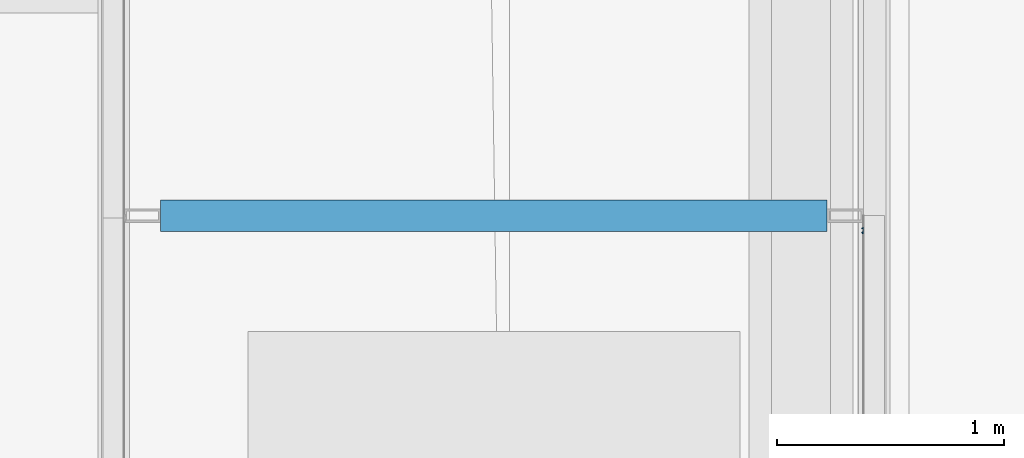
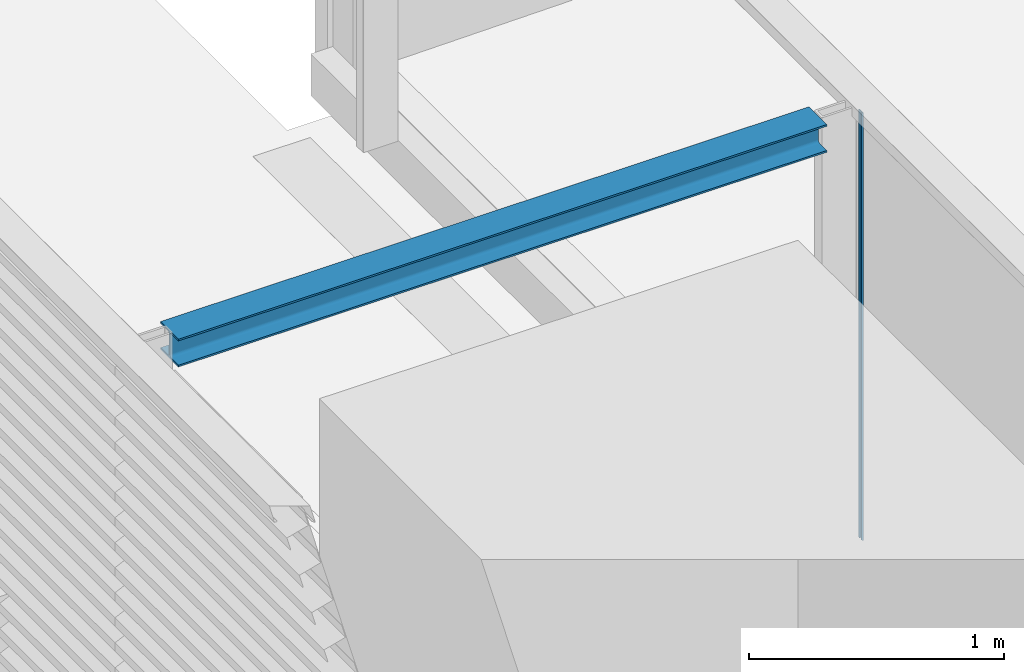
# One storey, part 18 of 32: 1 beam, 1 member, 1 element without a shape of its own.
"""IFC2X3 building model written with IfcOpenShell, lengths in millimetres."""

from ifc_helpers import new_model, entity, si_unit, converted_unit, derived_unit, direction, frame, frame_2d, origin, place, context, subcontext, project, spatial, polyline, circle_curve, parameter, trimmed, segment, composite_curve, i_section, outline, extrude, source, transform, mapped, material, type_object, type_shapes, element, aggregate, save


model = new_model("IFC2X3")

# Units and contexts
model_context = context("Model", 3, precision=0.01, world=origin(), true_north=direction((6.123031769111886e-17, 1.0)))
body_context = subcontext(model_context, "Body", "Model", "MODEL_VIEW")
ifc_project = project(units=[si_unit("LENGTHUNIT", "METRE", prefix="MILLI"), si_unit("AREAUNIT", "SQUARE_METRE"), si_unit("VOLUMEUNIT", "CUBIC_METRE"), converted_unit("PLANEANGLEUNIT", "DEGREE", entity("IfcRatioMeasure", 0.017453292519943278), si_unit("PLANEANGLEUNIT", "RADIAN"), dimensions=[0, 0, 0, 0, 0, 0, 0]), si_unit("MASSUNIT", "GRAM", prefix="KILO"), derived_unit("MASSDENSITYUNIT", [(si_unit("MASSUNIT", "GRAM", prefix="KILO"), 1), (si_unit("LENGTHUNIT", "METRE"), -3)]), derived_unit("IONCONCENTRATIONUNIT", [(si_unit("MASSUNIT", "GRAM", prefix="KILO"), 1), (si_unit("LENGTHUNIT", "METRE"), -3)]), derived_unit("MOMENTOFINERTIAUNIT", [(si_unit("LENGTHUNIT", "METRE"), 4)]), si_unit("TIMEUNIT", "SECOND"), si_unit("FREQUENCYUNIT", "HERTZ"), si_unit("THERMODYNAMICTEMPERATUREUNIT", "DEGREE_CELSIUS"), derived_unit("THERMALTRANSMITTANCEUNIT", [(si_unit("MASSUNIT", "GRAM", prefix="KILO"), 1), (si_unit("THERMODYNAMICTEMPERATUREUNIT", "KELVIN"), -1), (si_unit("TIMEUNIT", "SECOND"), -3)]), derived_unit("THERMALCONDUCTANCEUNIT", [(si_unit("MASSUNIT", "GRAM", prefix="KILO"), 1), (si_unit("THERMODYNAMICTEMPERATUREUNIT", "KELVIN"), -1), (si_unit("TIMEUNIT", "SECOND"), -3), (si_unit("LENGTHUNIT", "METRE"), 1)]), derived_unit("VOLUMETRICFLOWRATEUNIT", [(si_unit("LENGTHUNIT", "METRE"), 3), (si_unit("TIMEUNIT", "SECOND"), -1)]), derived_unit("MASSFLOWRATEUNIT", [(si_unit("MASSUNIT", "GRAM", prefix="KILO"), 1), (si_unit("TIMEUNIT", "SECOND"), -1)]), derived_unit("ROTATIONALFREQUENCYUNIT", [(si_unit("TIMEUNIT", "SECOND"), -1)]), si_unit("ELECTRICCURRENTUNIT", "AMPERE"), si_unit("ELECTRICVOLTAGEUNIT", "VOLT"), si_unit("POWERUNIT", "WATT"), si_unit("FORCEUNIT", "NEWTON", prefix="KILO"), si_unit("ILLUMINANCEUNIT", "LUX"), si_unit("LUMINOUSFLUXUNIT", "LUMEN"), si_unit("LUMINOUSINTENSITYUNIT", "CANDELA"), derived_unit("USERDEFINED", [(si_unit("MASSUNIT", "GRAM", prefix="KILO"), -1), (si_unit("LENGTHUNIT", "METRE"), -2), (si_unit("TIMEUNIT", "SECOND"), 3), (si_unit("LUMINOUSFLUXUNIT", "LUMEN"), 1)]), derived_unit("USERDEFINED", [(si_unit("MASSUNIT", "GRAM", prefix="KILO"), 1), (si_unit("TIMEUNIT", "SECOND"), -3), (si_unit("LENGTHUNIT", "METRE"), 3), (si_unit("ELECTRICCURRENTUNIT", "AMPERE"), -2)]), derived_unit("SOUNDPOWERUNIT", [(si_unit("MASSUNIT", "GRAM", prefix="KILO"), 1), (si_unit("TIMEUNIT", "SECOND"), -3), (si_unit("LENGTHUNIT", "METRE"), 2)]), derived_unit("SOUNDPRESSUREUNIT", [(si_unit("MASSUNIT", "GRAM", prefix="KILO"), 1), (si_unit("LENGTHUNIT", "METRE"), -1), (si_unit("TIMEUNIT", "SECOND"), -2)]), derived_unit("LINEARVELOCITYUNIT", [(si_unit("LENGTHUNIT", "METRE"), 1), (si_unit("TIMEUNIT", "SECOND"), -1)]), si_unit("PRESSUREUNIT", "PASCAL"), derived_unit("USERDEFINED", [(si_unit("MASSUNIT", "GRAM", prefix="KILO"), 1), (si_unit("LENGTHUNIT", "METRE"), -2), (si_unit("TIMEUNIT", "SECOND"), -2)]), derived_unit("LINEARFORCEUNIT", [(si_unit("MASSUNIT", "GRAM", prefix="KILO"), 1), (si_unit("TIMEUNIT", "SECOND"), -2)]), derived_unit("PLANARFORCEUNIT", [(si_unit("MASSUNIT", "GRAM", prefix="KILO"), 1), (si_unit("LENGTHUNIT", "METRE"), -1), (si_unit("TIMEUNIT", "SECOND"), -2)]), derived_unit("SPECIFICHEATCAPACITYUNIT", [(si_unit("THERMODYNAMICTEMPERATUREUNIT", "KELVIN"), -1), (si_unit("LENGTHUNIT", "METRE"), 2), (si_unit("TIMEUNIT", "SECOND"), -2)]), derived_unit("HEATINGVALUEUNIT", [(si_unit("LENGTHUNIT", "METRE"), 2), (si_unit("TIMEUNIT", "SECOND"), -2)]), derived_unit("VAPORPERMEABILITYUNIT", [(si_unit("LENGTHUNIT", "METRE"), -1), (si_unit("TIMEUNIT", "SECOND"), 1)]), derived_unit("DYNAMICVISCOSITYUNIT", [(si_unit("MASSUNIT", "GRAM", prefix="KILO"), 1), (si_unit("TIMEUNIT", "SECOND"), -1), (si_unit("LENGTHUNIT", "METRE"), -1)]), derived_unit("THERMALEXPANSIONCOEFFICIENTUNIT", [(si_unit("THERMODYNAMICTEMPERATUREUNIT", "KELVIN"), -1)]), derived_unit("MODULUSOFELASTICITYUNIT", [(si_unit("MASSUNIT", "GRAM", prefix="KILO"), 1), (si_unit("LENGTHUNIT", "METRE"), -1), (si_unit("TIMEUNIT", "SECOND"), -2)]), derived_unit("ISOTHERMALMOISTURECAPACITYUNIT", [(si_unit("LENGTHUNIT", "METRE"), 3), (si_unit("MASSUNIT", "GRAM", prefix="KILO"), -1)]), derived_unit("MOISTUREDIFFUSIVITYUNIT", [(si_unit("TIMEUNIT", "SECOND"), -1), (si_unit("LENGTHUNIT", "METRE"), 2)])], contexts=[model_context])

# Site, building, storey
site_placement = place(None, frame((0.0, 300.0, 0.0)))
site = spatial("IfcSite", under=ifc_project, at=site_placement, Name="<Kadastrale nummers>", CompositionType="ELEMENT")
building_placement = place(site_placement, origin())
building = spatial("IfcBuilding", under=site, at=building_placement, CompositionType="ELEMENT")
storey_placement = place(building_placement, frame((0.0, 0.0, 7150.000035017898)))
storey = spatial("IfcBuildingStorey", under=building, at=storey_placement, Name="02 tweede verdieping", CompositionType="ELEMENT", Elevation=7150.000035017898)

# Beam
ifc_material_1 = material(Name="h2_staal S235")
beam_type = type_object("IfcBeamType", Name="NLRS_28_SF_LIB_balk hea -SH_gen_ISR:balk gen hea140", PredefinedType="BEAM")
beam_placement = place(storey_placement, frame((38440.0, 42600.0, 2409.9999649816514)))
element("IfcBeam", 1, at=beam_placement, inside=storey, type_object=beam_type, material=ifc_material_1, Name="NLRS_28_SF_LIB_balk hea -SH_gen_ISR:balk gen hea140", ObjectType="NLRS_28_SF_LIB_balk hea -SH_gen_ISR:balk gen hea140", context=body_context, shape_type="SweptSolid", body=[
    extrude(i_section(OverallWidth=140.0000000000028, OverallDepth=133.00000000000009, WebThickness=5.4999999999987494, FlangeThickness=8.500000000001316, FilletRadius=11.999999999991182, at=frame_2d((-1.0800249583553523e-12, 8.661515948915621e-12), x_axis=(0.0, 1.0))), frame((135.0, 0.0, 66.49999999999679), z_axis=(1.0, 0.0, 0.0), x_axis=(0.0, 0.0, -1.0)), (0.0, 0.0, 1.0), 2939.99999999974),
])

# Curtain wall, member
curtain_wall_type = type_object("IfcCurtainWallType", Name="Curtain Wall:NLRS_21_CWA_lamellenwand Linius - L.120 met LD.0065_Storax", PredefinedType="NOTDEFINED")
curtain_wall_placement = place(storey_placement, frame((0.0, 0.0, -7150.000035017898)))
curtain_wall = element("IfcCurtainWall", 2, at=curtain_wall_placement, inside=storey, type_object=curtain_wall_type, Name="Curtain Wall:NLRS_21_CWA_lamellenwand Linius - L.120 met LD.0065_Storax", ObjectType="Curtain Wall:NLRS_21_CWA_lamellenwand Linius - L.120 met LD.0065_Storax")
ifc_material_2 = material(Name="STAAL_RAL 7006")
member_type = type_object("IfcMemberType", Name="Rectangular Mullion:NLRS_21_CWM_drager LD.0065 - links_Storax", PredefinedType="MULLION", material=ifc_material_2)
shared_shape = source(origin(), body_context, "Body", "SweptSolid", [
    extrude(outline(composite_curve([segment(polyline([(-3.696834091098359, -14.998975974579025), (1.4234637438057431, -14.998975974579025)]), True, "CONTINUOUS"), segment(trimmed(circle_curve(frame_2d((1.4234637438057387, -13.998975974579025), x_axis=(0.0, -1.0)), 0.9999999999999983), [parameter(0.0)], [parameter(241.34010185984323)], True, "PARAMETER"), True, "CONTINUOUS"), segment(polyline([(0.5459816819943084, -13.519366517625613), (-2.196834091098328, -13.519366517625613)]), True, "CONTINUOUS"), segment(polyline([(-2.196834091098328, -13.519366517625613), (-2.196834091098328, -9.646548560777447)]), True, "CONTINUOUS"), segment(polyline([(-2.196834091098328, -9.646548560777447), (2.8031659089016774, -9.646548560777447)]), True, "CONTINUOUS"), segment(polyline([(2.8031659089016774, -9.646548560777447), (2.8031659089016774, -7.885916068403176)]), True, "CONTINUOUS"), segment(polyline([(2.8031659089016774, -7.885916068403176), (1.6031201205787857, -7.885916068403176)]), True, "CONTINUOUS"), segment(polyline([(1.6031201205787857, -7.885916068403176), (1.6031201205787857, -6.358836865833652)]), True, "CONTINUOUS"), segment(polyline([(1.6031201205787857, -6.358836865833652), (-0.24734056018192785, -6.358836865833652)]), True, "CONTINUOUS"), segment(polyline([(-0.24734056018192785, -6.358836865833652), (-0.24734056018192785, -7.885916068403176)]), True, "CONTINUOUS"), segment(polyline([(-0.24734056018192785, -7.885916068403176), (-2.1968340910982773, -7.885916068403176)]), True, "CONTINUOUS"), segment(polyline([(-2.1968340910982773, -7.885916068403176), (-2.1968340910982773, 7.887964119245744)]), True, "CONTINUOUS"), segment(polyline([(-2.1968340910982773, 7.887964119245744), (-0.24734056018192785, 7.887964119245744)]), True, "CONTINUOUS"), segment(polyline([(-0.24734056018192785, 7.887964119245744), (-0.24734056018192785, 6.348596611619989)]), True, "CONTINUOUS"), segment(polyline([(-0.24734056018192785, 6.348596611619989), (1.6031201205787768, 6.348596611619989)]), True, "CONTINUOUS"), segment(polyline([(1.6031201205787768, 6.348596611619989), (1.6031201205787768, 7.887964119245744)]), True, "CONTINUOUS"), segment(polyline([(1.6031201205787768, 7.887964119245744), (2.8031659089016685, 7.887964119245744)]), True, "CONTINUOUS"), segment(polyline([(2.8031659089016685, 7.887964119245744), (2.8031659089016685, 9.648596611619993)]), True, "CONTINUOUS"), segment(polyline([(2.8031659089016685, 9.648596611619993), (-2.1968340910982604, 9.648596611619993)]), True, "CONTINUOUS"), segment(polyline([(-2.1968340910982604, 9.648596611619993), (-2.1968340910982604, 13.521414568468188)]), True, "CONTINUOUS"), segment(polyline([(-2.1968340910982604, 13.521414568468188), (0.5459816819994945, 13.521414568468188)]), True, "CONTINUOUS"), segment(trimmed(circle_curve(frame_2d((1.4234637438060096, 14.001024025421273), x_axis=(-0.8774820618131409, -0.4796094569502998)), 0.9999999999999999), [parameter(0.0)], [parameter(241.34010185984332)], True, "PARAMETER"), True, "CONTINUOUS"), segment(polyline([(1.423463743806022, 15.001024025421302), (-3.696834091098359, 15.001024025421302)]), True, "CONTINUOUS"), segment(polyline([(-3.696834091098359, 15.001024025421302), (-3.696834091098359, -14.998975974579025)]), True, "CONTINUOUS")], self_intersect=False)), frame((-65.0010240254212, -4.696834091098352, -2049.999964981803), z_axis=(0.0, 0.0, 1.0), x_axis=(0.0, -1.0, 0.0)), (0.0, 0.0, 1.0), 2049.999964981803),
])
type_shapes(member_type, [shared_shape])
member_placement = place(curtain_wall_placement, frame((41676.0, 42600.0, 7650.000035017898), z_axis=(0.0, 0.0, -1.0), x_axis=(0.0, 1.0, 0.0)))
member = element("IfcMember", 3, at=member_placement, type_object=member_type, material=ifc_material_2, Name="Rectangular Mullion:NLRS_21_CWM_drager LD.0065 - links_Storax", ObjectType="Rectangular Mullion:NLRS_21_CWM_drager LD.0065 - links_Storax", context=body_context, shape_type="MappedRepresentation", body=[
    mapped(shared_shape, transform((0.0, 0.0, 0.0), scale=1.0)),
])
aggregate(curtain_wall, [member])

save(model, "model.ifc")
